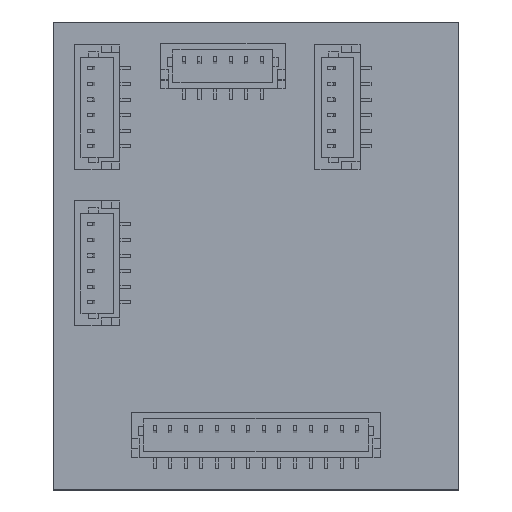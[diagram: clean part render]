
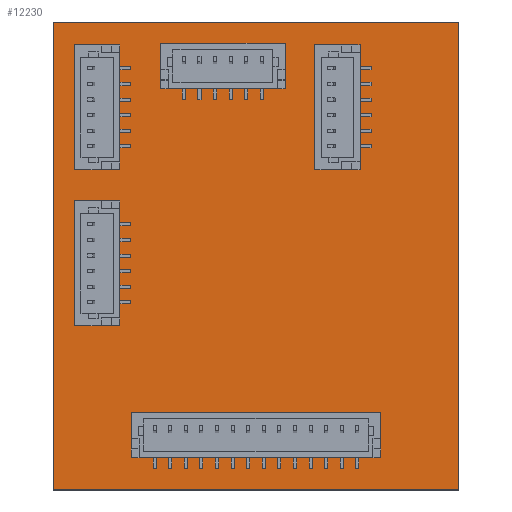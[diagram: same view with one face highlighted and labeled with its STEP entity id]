
A CAD part, top view. The second image highlights one B-rep face of the part: STEP entity #12230.
In plain terms, the highlighted planar face has unit normal (0, 0, 1).
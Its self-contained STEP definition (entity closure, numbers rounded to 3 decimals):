
#12101 = VERTEX_POINT('',#12102);
#12102 = CARTESIAN_POINT('',(26.,-30.,1.11));
#12108 = EDGE_CURVE('',#12101,#12109,#12111,.T.);
#12109 = VERTEX_POINT('',#12110);
#12110 = CARTESIAN_POINT('',(0.,-30.,1.11));
#12111 = LINE('',#12112,#12113);
#12112 = CARTESIAN_POINT('',(26.,-30.,1.11));
#12113 = VECTOR('',#12114,1.);
#12114 = DIRECTION('',(-1.,0.,0.));
#12139 = EDGE_CURVE('',#12109,#12140,#12142,.T.);
#12140 = VERTEX_POINT('',#12141);
#12141 = CARTESIAN_POINT('',(0.,0.,1.11));
#12142 = LINE('',#12143,#12144);
#12143 = CARTESIAN_POINT('',(0.,-30.,1.11));
#12144 = VECTOR('',#12145,1.);
#12145 = DIRECTION('',(0.,1.,0.));
#12170 = EDGE_CURVE('',#12140,#12171,#12173,.T.);
#12171 = VERTEX_POINT('',#12172);
#12172 = CARTESIAN_POINT('',(26.,0.,1.11));
#12173 = LINE('',#12174,#12175);
#12174 = CARTESIAN_POINT('',(0.,0.,1.11));
#12175 = VECTOR('',#12176,1.);
#12176 = DIRECTION('',(1.,0.,0.));
#12201 = EDGE_CURVE('',#12171,#12101,#12202,.T.);
#12202 = LINE('',#12203,#12204);
#12203 = CARTESIAN_POINT('',(26.,0.,1.11));
#12204 = VECTOR('',#12205,1.);
#12205 = DIRECTION('',(0.,-1.,0.));
#12230 = ADVANCED_FACE('',(#12231),#12237,.T.);
#12231 = FACE_BOUND('',#12232,.F.);
#12232 = EDGE_LOOP('',(#12233,#12234,#12235,#12236));
#12233 = ORIENTED_EDGE('',*,*,#12108,.T.);
#12234 = ORIENTED_EDGE('',*,*,#12139,.T.);
#12235 = ORIENTED_EDGE('',*,*,#12170,.T.);
#12236 = ORIENTED_EDGE('',*,*,#12201,.T.);
#12237 = PLANE('',#12238);
#12238 = AXIS2_PLACEMENT_3D('',#12239,#12240,#12241);
#12239 = CARTESIAN_POINT('',(0.,0.,1.11));
#12240 = DIRECTION('',(0.,0.,1.));
#12241 = DIRECTION('',(1.,0.,-0.));
